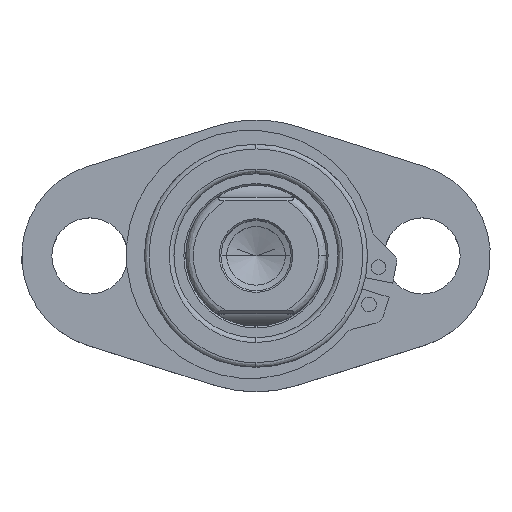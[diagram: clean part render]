
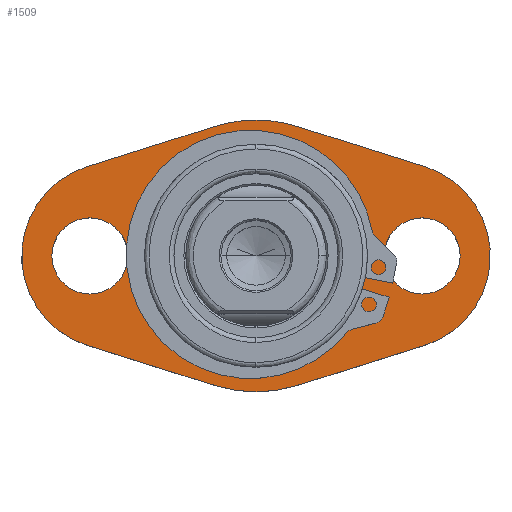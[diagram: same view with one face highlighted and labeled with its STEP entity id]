
A CAD part, top view. The second image highlights one B-rep face of the part: STEP entity #1509.
In plain terms, the highlighted planar face has unit normal (0, 0, 1) as drawn and (0, 1, 0) by its records, which use the part's own axes.
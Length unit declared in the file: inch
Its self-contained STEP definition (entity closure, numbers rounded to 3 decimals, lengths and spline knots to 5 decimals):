
#7 = FACE_BOUND ( 'NONE', #2680, .T. ) ;
#47 = VERTEX_POINT ( 'NONE', #1734 ) ;
#62 = CARTESIAN_POINT ( 'NONE',  ( 0.886, 0.25, 0. ) ) ;
#82 = ORIENTED_EDGE ( 'NONE', *, *, #3761, .F. ) ;
#90 = CARTESIAN_POINT ( 'NONE',  ( 0.9, 0.25, 0.47697 ) ) ;
#117 = DIRECTION ( 'NONE',  ( -0.954, 0., -0.3 ) ) ;
#170 = ORIENTED_EDGE ( 'NONE', *, *, #542, .T. ) ;
#188 = ORIENTED_EDGE ( 'NONE', *, *, #4680, .F. ) ;
#215 = DIRECTION ( 'NONE',  ( 0., 0., 1. ) ) ;
#268 = VERTEX_POINT ( 'NONE', #1536 ) ;
#276 = CIRCLE ( 'NONE', #930, 0.203 ) ;
#296 = VECTOR ( 'NONE', #462, 39.37008 ) ;
#382 = EDGE_CURVE ( 'NONE', #695, #3891, #1899, .T. ) ;
#416 = PLANE ( 'NONE',  #2582 ) ;
#430 = VECTOR ( 'NONE', #1172, 39.37008 ) ;
#462 = DIRECTION ( 'NONE',  ( 0.954, 0., -0.3 ) ) ;
#484 = DIRECTION ( 'NONE',  ( 0., -1., 0. ) ) ;
#542 = EDGE_CURVE ( 'NONE', #2351, #2811, #1386, .T. ) ;
#556 = DIRECTION ( 'NONE',  ( 0., -1., 0. ) ) ;
#624 = AXIS2_PLACEMENT_3D ( 'NONE', #3514, #4255, #2455 ) ;
#684 = EDGE_CURVE ( 'NONE', #4218, #47, #4443, .T. ) ;
#695 = VERTEX_POINT ( 'NONE', #2258 ) ;
#783 = CARTESIAN_POINT ( 'NONE',  ( -0.9, 0.25, -0.47697 ) ) ;
#868 = CARTESIAN_POINT ( 'NONE',  ( 0.9, 0.25, -0.47697 ) ) ;
#872 = CARTESIAN_POINT ( 'NONE',  ( 0., 0.25, 0. ) ) ;
#899 = ORIENTED_EDGE ( 'NONE', *, *, #2439, .T. ) ;
#907 = ORIENTED_EDGE ( 'NONE', *, *, #3509, .T. ) ;
#930 = AXIS2_PLACEMENT_3D ( 'NONE', #3437, #3109, #215 ) ;
#934 = CIRCLE ( 'NONE', #3063, 0.5 ) ;
#960 = CARTESIAN_POINT ( 'NONE',  ( 0.2175, 0.25, 0.69161 ) ) ;
#989 = EDGE_CURVE ( 'NONE', #2422, #2723, #934, .T. ) ;
#996 = DIRECTION ( 'NONE',  ( 0., -1., 0. ) ) ;
#1037 = DIRECTION ( 'NONE',  ( 0., -1., 0. ) ) ;
#1054 = EDGE_CURVE ( 'NONE', #3212, #2723, #2899, .T. ) ;
#1128 = CARTESIAN_POINT ( 'NONE',  ( -0.886, 0.25, 0. ) ) ;
#1149 = ORIENTED_EDGE ( 'NONE', *, *, #3915, .F. ) ;
#1172 = DIRECTION ( 'NONE',  ( -0.954, 0., 0.3 ) ) ;
#1195 = CARTESIAN_POINT ( 'NONE',  ( -0.9, 0.25, -0.47697 ) ) ;
#1279 = EDGE_CURVE ( 'NONE', #4593, #268, #1999, .T. ) ;
#1308 = CIRCLE ( 'NONE', #624, 0.5 ) ;
#1386 = CIRCLE ( 'NONE', #4432, 0.203 ) ;
#1427 = DIRECTION ( 'NONE',  ( 0., 0., 1. ) ) ;
#1445 = CIRCLE ( 'NONE', #3534, 0.725 ) ;
#1474 = DIRECTION ( 'NONE',  ( 0., 0., -1. ) ) ;
#1501 = CARTESIAN_POINT ( 'NONE',  ( 0.75, 0.25, 0. ) ) ;
#1509 = ADVANCED_FACE ( 'NONE', ( #7, #3793, #2045, #2779 ), #416, .F. ) ;
#1536 = CARTESIAN_POINT ( 'NONE',  ( 0.2175, 0.25, -0.69161 ) ) ;
#1551 = CARTESIAN_POINT ( 'NONE',  ( 0.9, 0.25, 0.47697 ) ) ;
#1561 = CARTESIAN_POINT ( 'NONE',  ( 0., 0.25, 0. ) ) ;
#1580 = LINE ( 'NONE', #4077, #2335 ) ;
#1637 = ORIENTED_EDGE ( 'NONE', *, *, #989, .F. ) ;
#1659 = EDGE_LOOP ( 'NONE', ( #3154, #2663, #188, #3407, #2937, #907, #82, #3227, #1637 ) ) ;
#1734 = CARTESIAN_POINT ( 'NONE',  ( -0.886, 0.25, 0.203 ) ) ;
#1802 = CARTESIAN_POINT ( 'NONE',  ( 0., 0.25, 0.595 ) ) ;
#1827 = AXIS2_PLACEMENT_3D ( 'NONE', #2722, #556, #4160 ) ;
#1899 = LINE ( 'NONE', #1195, #430 ) ;
#1951 = DIRECTION ( 'NONE',  ( 0., 0., -1. ) ) ;
#1997 = CARTESIAN_POINT ( 'NONE',  ( -0.9, 0.25, 0.47697 ) ) ;
#1999 = CIRCLE ( 'NONE', #2354, 0.725 ) ;
#2038 = ORIENTED_EDGE ( 'NONE', *, *, #3976, .F. ) ;
#2045 = FACE_BOUND ( 'NONE', #2807, .T. ) ;
#2081 = DIRECTION ( 'NONE',  ( 0., 0., -1. ) ) ;
#2085 = DIRECTION ( 'NONE',  ( 0., -1., 0. ) ) ;
#2131 = VERTEX_POINT ( 'NONE', #1802 ) ;
#2137 = VERTEX_POINT ( 'NONE', #2165 ) ;
#2138 = CIRCLE ( 'NONE', #1827, 0.725 ) ;
#2165 = CARTESIAN_POINT ( 'NONE',  ( -0.2175, 0.25, 0.69161 ) ) ;
#2173 = CARTESIAN_POINT ( 'NONE',  ( 0.886, 0.25, 0.203 ) ) ;
#2183 = CIRCLE ( 'NONE', #3569, 0.203 ) ;
#2253 = DIRECTION ( 'NONE',  ( 0., 0., -1. ) ) ;
#2254 = EDGE_LOOP ( 'NONE', ( #899, #3432 ) ) ;
#2258 = CARTESIAN_POINT ( 'NONE',  ( -0.2175, 0.25, -0.69161 ) ) ;
#2332 = EDGE_CURVE ( 'NONE', #2422, #268, #1580, .T. ) ;
#2335 = VECTOR ( 'NONE', #117, 39.37008 ) ;
#2341 = DIRECTION ( 'NONE',  ( 0., 0., -1. ) ) ;
#2351 = VERTEX_POINT ( 'NONE', #2173 ) ;
#2354 = AXIS2_PLACEMENT_3D ( 'NONE', #4286, #2085, #4644 ) ;
#2374 = AXIS2_PLACEMENT_3D ( 'NONE', #1128, #2964, #3663 ) ;
#2422 = VERTEX_POINT ( 'NONE', #868 ) ;
#2439 = EDGE_CURVE ( 'NONE', #47, #4218, #276, .T. ) ;
#2455 = DIRECTION ( 'NONE',  ( 0., 0., -1. ) ) ;
#2538 = CARTESIAN_POINT ( 'NONE',  ( 0., 0.25, -0.595 ) ) ;
#2582 = AXIS2_PLACEMENT_3D ( 'NONE', #4028, #484, #1474 ) ;
#2663 = ORIENTED_EDGE ( 'NONE', *, *, #1279, .F. ) ;
#2680 = EDGE_LOOP ( 'NONE', ( #1149, #2038 ) ) ;
#2722 = CARTESIAN_POINT ( 'NONE',  ( 0., 0.25, 0. ) ) ;
#2723 = VERTEX_POINT ( 'NONE', #1551 ) ;
#2743 = CARTESIAN_POINT ( 'NONE',  ( 0., 0.25, -0.725 ) ) ;
#2779 = FACE_BOUND ( 'NONE', #2254, .T. ) ;
#2807 = EDGE_LOOP ( 'NONE', ( #170, #3859 ) ) ;
#2811 = VERTEX_POINT ( 'NONE', #4320 ) ;
#2899 = LINE ( 'NONE', #90, #296 ) ;
#2937 = ORIENTED_EDGE ( 'NONE', *, *, #4419, .F. ) ;
#2964 = DIRECTION ( 'NONE',  ( 0., -1., 0. ) ) ;
#3063 = AXIS2_PLACEMENT_3D ( 'NONE', #1501, #4016, #2253 ) ;
#3109 = DIRECTION ( 'NONE',  ( 0., -1., 0. ) ) ;
#3154 = ORIENTED_EDGE ( 'NONE', *, *, #2332, .T. ) ;
#3162 = VECTOR ( 'NONE', #3797, 39.37008 ) ;
#3212 = VERTEX_POINT ( 'NONE', #960 ) ;
#3227 = ORIENTED_EDGE ( 'NONE', *, *, #1054, .T. ) ;
#3407 = ORIENTED_EDGE ( 'NONE', *, *, #382, .T. ) ;
#3432 = ORIENTED_EDGE ( 'NONE', *, *, #684, .T. ) ;
#3437 = CARTESIAN_POINT ( 'NONE',  ( -0.886, 0.25, 0. ) ) ;
#3472 = CIRCLE ( 'NONE', #4164, 0.595 ) ;
#3509 = EDGE_CURVE ( 'NONE', #3799, #2137, #4232, .T. ) ;
#3514 = CARTESIAN_POINT ( 'NONE',  ( -0.75, 0.25, 0. ) ) ;
#3526 = CIRCLE ( 'NONE', #3917, 0.595 ) ;
#3534 = AXIS2_PLACEMENT_3D ( 'NONE', #4248, #996, #2081 ) ;
#3569 = AXIS2_PLACEMENT_3D ( 'NONE', #62, #4323, #1427 ) ;
#3613 = CARTESIAN_POINT ( 'NONE',  ( -0.9, 0.25, 0.47697 ) ) ;
#3663 = DIRECTION ( 'NONE',  ( 0., 0., 1. ) ) ;
#3761 = EDGE_CURVE ( 'NONE', #3212, #2137, #1445, .T. ) ;
#3793 = FACE_OUTER_BOUND ( 'NONE', #1659, .T. ) ;
#3797 = DIRECTION ( 'NONE',  ( 0.954, 0., 0.3 ) ) ;
#3799 = VERTEX_POINT ( 'NONE', #3613 ) ;
#3859 = ORIENTED_EDGE ( 'NONE', *, *, #3886, .T. ) ;
#3886 = EDGE_CURVE ( 'NONE', #2811, #2351, #2183, .T. ) ;
#3891 = VERTEX_POINT ( 'NONE', #783 ) ;
#3915 = EDGE_CURVE ( 'NONE', #4055, #2131, #3526, .T. ) ;
#3917 = AXIS2_PLACEMENT_3D ( 'NONE', #1561, #4128, #1951 ) ;
#3954 = CARTESIAN_POINT ( 'NONE',  ( 0.886, 0.25, 0. ) ) ;
#3976 = EDGE_CURVE ( 'NONE', #2131, #4055, #3472, .T. ) ;
#4016 = DIRECTION ( 'NONE',  ( 0., -1., 0. ) ) ;
#4028 = CARTESIAN_POINT ( 'NONE',  ( 0.75, 0.25, 0. ) ) ;
#4055 = VERTEX_POINT ( 'NONE', #2538 ) ;
#4057 = CARTESIAN_POINT ( 'NONE',  ( -0.886, 0.25, -0.203 ) ) ;
#4077 = CARTESIAN_POINT ( 'NONE',  ( 0.9, 0.25, -0.47697 ) ) ;
#4079 = DIRECTION ( 'NONE',  ( 0., 1., 0. ) ) ;
#4128 = DIRECTION ( 'NONE',  ( 0., 1., 0. ) ) ;
#4160 = DIRECTION ( 'NONE',  ( 0., 0., -1. ) ) ;
#4164 = AXIS2_PLACEMENT_3D ( 'NONE', #872, #4079, #2341 ) ;
#4218 = VERTEX_POINT ( 'NONE', #4057 ) ;
#4232 = LINE ( 'NONE', #1997, #3162 ) ;
#4248 = CARTESIAN_POINT ( 'NONE',  ( 0., 0.25, 0. ) ) ;
#4255 = DIRECTION ( 'NONE',  ( 0., -1., 0. ) ) ;
#4286 = CARTESIAN_POINT ( 'NONE',  ( 0., 0.25, 0. ) ) ;
#4306 = DIRECTION ( 'NONE',  ( 0., 0., 1. ) ) ;
#4320 = CARTESIAN_POINT ( 'NONE',  ( 0.886, 0.25, -0.203 ) ) ;
#4323 = DIRECTION ( 'NONE',  ( 0., -1., 0. ) ) ;
#4419 = EDGE_CURVE ( 'NONE', #3799, #3891, #1308, .T. ) ;
#4432 = AXIS2_PLACEMENT_3D ( 'NONE', #3954, #1037, #4306 ) ;
#4443 = CIRCLE ( 'NONE', #2374, 0.203 ) ;
#4593 = VERTEX_POINT ( 'NONE', #2743 ) ;
#4644 = DIRECTION ( 'NONE',  ( 0., 0., -1. ) ) ;
#4680 = EDGE_CURVE ( 'NONE', #695, #4593, #2138, .T. ) ;
